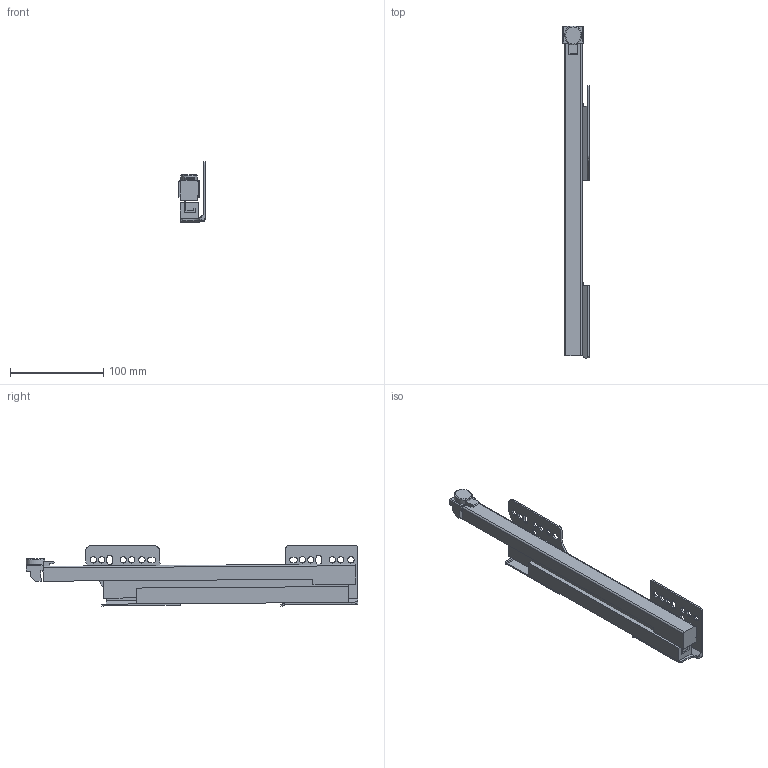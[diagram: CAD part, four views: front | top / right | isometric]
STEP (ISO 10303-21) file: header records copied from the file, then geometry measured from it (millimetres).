
FILE_DESCRIPTION (( 'STEP AP214' ), '1' );
FILE_NAME ('_IMOS_NOVA-Pro_KS_TL_EB29mm_RE_NL350.step', '2010-07-15T11:34:18', ( 'grass' ), ( '' ), 'SwSTEP 2.0', 'SolidWorks 2009', '' );
FILE_SCHEMA (( 'AUTOMOTIVE_DESIGN' ));
Length unit declared in the file: millimetre
Products named in the file (1): _IMOS_NOVA-Pro_KS_TL_EB29mm_RE_NL350
Bounding box: 27.95 x 355.61 x 64.46 mm (x, y, z)
Volume: 242503.3 mm3; surface area: 104838 mm2
Topology: 8 solids, 8 shells, 185 faces, 496 edges, 328 vertices
Faces by surface type: plane 116, cylinder 64, torus 5
Entity records: 5964 total; most frequent: CARTESIAN_POINT 1097, ORIENTED_EDGE 992, DIRECTION 972, EDGE_CURVE 496, LINE 350, VECTOR 350, VERTEX_POINT 328, AXIS2_PLACEMENT_3D 311
